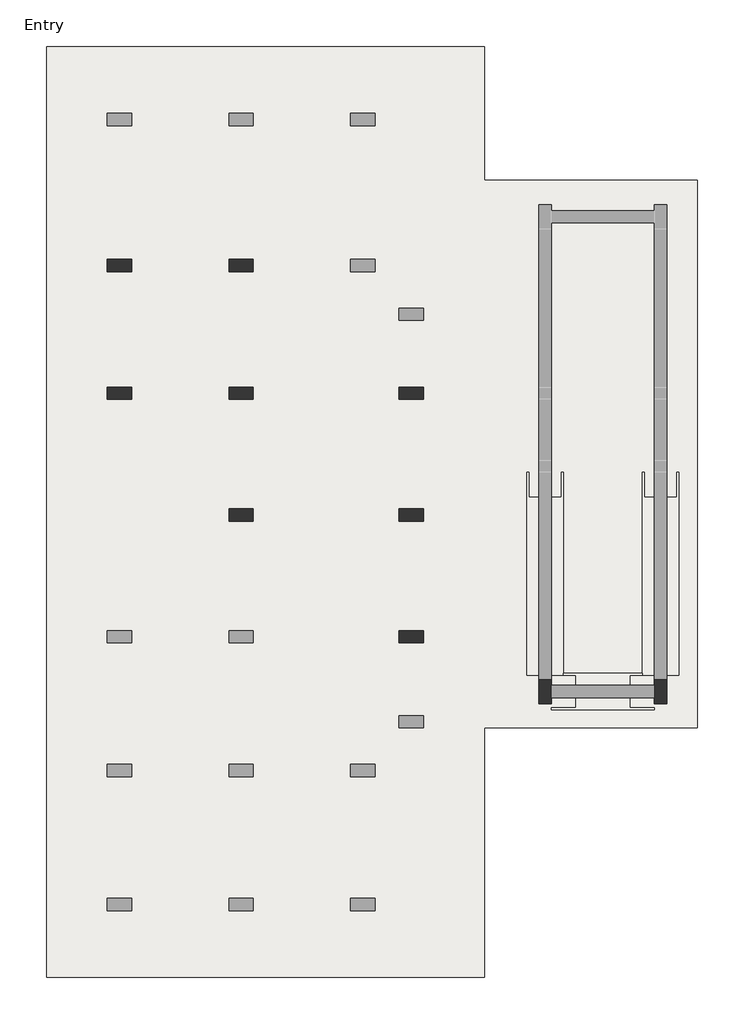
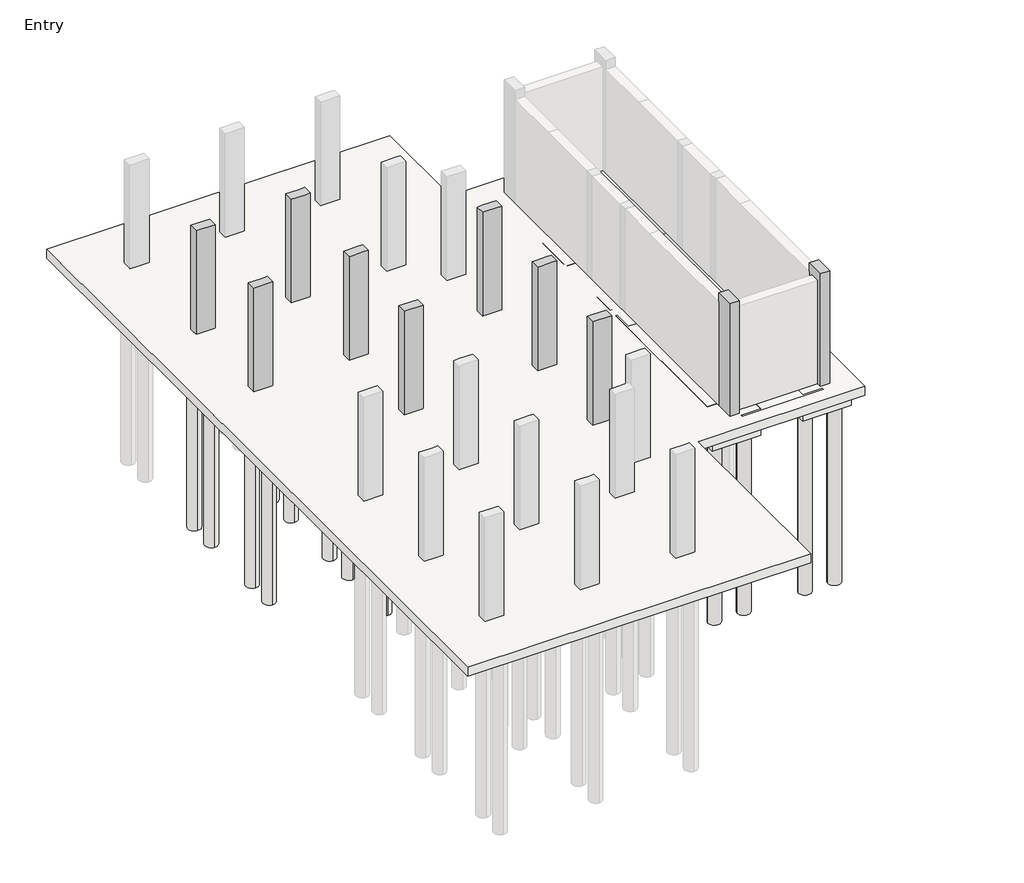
# One storey, part 2 of 3: 34 slabs, 10 columns, 3 footings.
"""IFC4 building model written with IfcOpenShell, lengths in millimetres."""

from ifc_helpers import new_model, si_unit, point, frame, frame_2d, origin, place, context, project, spatial, polyline, circle_curve, trimmed, segment, composite_curve, outline, extrude, faceted_brep, element, save

model = new_model("IFC4")

# Units and contexts
model_context = context("Model", 3, world=origin())
ifc_project = project(units=[si_unit("LENGTHUNIT", "METRE", prefix="MILLI")], contexts=[model_context])

# Site, building, storey
site = spatial("IfcSite", under=ifc_project)
building = spatial("IfcBuilding", under=site)
storey = spatial("IfcBuildingStorey", under=building, Name="Entry", Elevation=0.0)

# Columns
placement = place(None, origin())
element("IfcColumn", 1, ObjectType="Concrete-Rectangular-Column : 12 x 24", at=placement, inside=storey, context=model_context, shape_type="Brep", body=[
    faceted_brep([(-15967.1663981, 6616.5487848, 0.0), (-15357.5663981, 6616.5487848, 0.0), (-15357.5663981, 6311.7487848, 0.0), (-15967.1663981, 6311.7487848, 0.0), (-15967.1663981, 6616.5487848, 3505.2), (-15814.7663981, 6616.5487848, 3505.2), (-15509.9663981, 6616.5487848, 3505.2), (-15357.5663981, 6616.5487848, 3505.2), (-15357.5663981, 6616.5487848, 2895.6), (-15357.5663981, 6311.7487848, 3505.2), (-15357.5663981, 6311.7487848, 2895.6), (-15509.9663981, 6311.7487848, 3505.2), (-15814.7663981, 6311.7487848, 3505.2), (-15967.1663981, 6311.7487848, 3505.2)], [[[0, 1, 2, 3]], [[4, 5, 6, 7, 8, 1, 0]], [[7, 9, 10, 2, 1, 8]], [[9, 11, 12, 13, 3, 2, 10]], [[13, 4, 0, 3]], [[4, 13, 12, 11, 9, 7, 6, 5]]]),
])
element("IfcColumn", 2, ObjectType="Concrete-Rectangular-Column : 12 x 24", at=placement, inside=storey, context=model_context, shape_type="Brep", body=[
    faceted_brep([(-15967.1663981, 3416.1487848, 0.0), (-15357.5663981, 3416.1487848, 0.0), (-15357.5663981, 3111.3487848, 0.0), (-15967.1663981, 3111.3487848, 0.0), (-15967.1663981, 3416.1487848, 3505.2), (-15814.7663981, 3416.1487848, 3505.2), (-15509.9663981, 3416.1487848, 3505.2), (-15357.5663981, 3416.1487848, 3505.2), (-15357.5663981, 3416.1487848, 2895.6), (-15357.5663981, 3111.3487848, 3505.2), (-15357.5663981, 3111.3487848, 2895.6), (-15967.1663981, 3111.3487848, 3505.2)], [[[0, 1, 2, 3]], [[4, 5, 6, 7, 8, 1, 0]], [[7, 9, 10, 2, 1, 8]], [[9, 11, 3, 2, 10]], [[11, 4, 0, 3]], [[4, 11, 9, 7, 6, 5]]]),
])
element("IfcColumn", 3, ObjectType="Concrete-Rectangular-Column : 12 x 24", at=placement, inside=storey, context=model_context, shape_type="Brep", body=[
    faceted_brep([(-12919.1663981, 368.1487848, 0.0), (-12309.5663981, 368.1487848, 0.0), (-12309.5663981, 63.3487848, 0.0), (-12919.1663981, 63.3487848, 0.0), (-12919.1663981, 368.1487848, 3505.2), (-12766.7663981, 368.1487848, 3505.2), (-12461.9663981, 368.1487848, 3505.2), (-12309.5663981, 368.1487848, 3505.2), (-12309.5663981, 368.1487848, 2895.6), (-12309.5663981, 63.3487848, 3505.2), (-12309.5663981, 63.3487848, 2895.6), (-12461.9663981, 63.3487848, 3505.2), (-12766.7663981, 63.3487848, 3505.2), (-12919.1663981, 63.3487848, 3505.2)], [[[0, 1, 2, 3]], [[4, 5, 6, 7, 8, 1, 0]], [[7, 9, 10, 2, 1, 8]], [[9, 11, 12, 13, 3, 2, 10]], [[13, 4, 0, 3]], [[4, 13, 12, 11, 9, 7, 6, 5]]]),
])
element("IfcColumn", 4, ObjectType="Concrete-Rectangular-Column : 12 x 24", at=placement, inside=storey, context=model_context, shape_type="Brep", body=[
    faceted_brep([(-12919.1663981, 3416.1487848, 0.0), (-12309.5663981, 3416.1487848, 0.0), (-12309.5663981, 3111.3487848, 0.0), (-12919.1663981, 3111.3487848, 0.0), (-12919.1663981, 3416.1487848, 3505.2), (-12766.7663981, 3416.1487848, 3505.2), (-12461.9663981, 3416.1487848, 3505.2), (-12309.5663981, 3416.1487848, 3505.2), (-12309.5663981, 3416.1487848, 2895.6), (-12919.1663981, 3416.1487848, 2895.6), (-12309.5663981, 3111.3487848, 3505.2), (-12309.5663981, 3111.3487848, 2895.6), (-12461.9663981, 3111.3487848, 3505.2), (-12766.7663981, 3111.3487848, 3505.2), (-12919.1663981, 3111.3487848, 3505.2), (-12919.1663981, 3111.3487848, 2895.6)], [[[0, 1, 2, 3]], [[4, 5, 6, 7, 8, 1, 0, 9]], [[7, 10, 11, 2, 1, 8]], [[10, 12, 13, 14, 15, 3, 2, 11]], [[14, 4, 9, 0, 3, 15]], [[4, 14, 13, 12, 10, 7, 6, 5]]]),
])
element("IfcColumn", 5, ObjectType="Concrete-Rectangular-Column : 12 x 24", at=placement, inside=storey, context=model_context, shape_type="Brep", body=[
    faceted_brep([(-12919.1663981, 6616.5487848, 0.0), (-12309.5663981, 6616.5487848, 0.0), (-12309.5663981, 6311.7487848, 0.0), (-12919.1663981, 6311.7487848, 0.0), (-12919.1663981, 6616.5487848, 3505.2), (-12766.7663981, 6616.5487848, 3505.2), (-12461.9663981, 6616.5487848, 3505.2), (-12309.5663981, 6616.5487848, 3505.2), (-12309.5663981, 6616.5487848, 2895.6), (-12919.1663981, 6616.5487848, 2895.6), (-12309.5663981, 6311.7487848, 3505.2), (-12309.5663981, 6311.7487848, 2895.6), (-12461.9663981, 6311.7487848, 3505.2), (-12766.7663981, 6311.7487848, 3505.2), (-12919.1663981, 6311.7487848, 3505.2), (-12919.1663981, 6311.7487848, 2895.6)], [[[0, 1, 2, 3]], [[4, 5, 6, 7, 8, 1, 0, 9]], [[7, 10, 11, 2, 1, 8]], [[10, 12, 13, 14, 15, 3, 2, 11]], [[14, 4, 9, 0, 3, 15]], [[4, 14, 13, 12, 10, 7, 6, 5]]]),
])
element("IfcColumn", 6, ObjectType="Concrete-Rectangular-Column : 12 x 24", at=placement, inside=storey, context=model_context, shape_type="Brep", body=[
    faceted_brep([(-8651.9663981, 3416.1487848, 0.0), (-8042.3663981, 3416.1487848, 0.0), (-8042.3663981, 3111.3487848, 0.0), (-8651.9663981, 3111.3487848, 0.0), (-8651.9663981, 3416.1487848, 3505.2), (-8499.5663981, 3416.1487848, 3505.2), (-8194.7663981, 3416.1487848, 3505.2), (-8042.3663981, 3416.1487848, 3505.2), (-8042.3663981, 3416.1487848, 2895.6), (-8651.9663981, 3416.1487848, 2895.6), (-8042.3663981, 3111.3487848, 3505.2), (-8042.3663981, 3111.3487848, 2895.6), (-8194.7663981, 3111.3487848, 3505.2), (-8499.5663981, 3111.3487848, 3505.2), (-8651.9663981, 3111.3487848, 3505.2), (-8651.9663981, 3111.3487848, 2895.6)], [[[0, 1, 2, 3]], [[4, 5, 6, 7, 8, 1, 0, 9]], [[7, 10, 11, 2, 1, 8]], [[10, 12, 13, 14, 15, 3, 2, 11]], [[14, 4, 9, 0, 3, 15]], [[4, 14, 13, 12, 10, 7, 6, 5]]]),
])
element("IfcColumn", 7, ObjectType="Concrete-Rectangular-Column : 12 x 24", at=placement, inside=storey, context=model_context, shape_type="Brep", body=[
    faceted_brep([(-8651.9663981, 368.1487848, 0.0), (-8042.3663981, 368.1487848, 0.0), (-8042.3663981, 63.3487848, 0.0), (-8651.9663981, 63.3487848, 0.0), (-8651.9663981, 368.1487848, 3505.2), (-8499.5663981, 368.1487848, 3505.2), (-8194.7663981, 368.1487848, 3505.2), (-8042.3663981, 368.1487848, 3505.2), (-8651.9663981, 368.1487848, 2895.6), (-8042.3663981, 63.3487848, 3505.2), (-8194.7663981, 63.3487848, 3505.2), (-8499.5663981, 63.3487848, 3505.2), (-8651.9663981, 63.3487848, 3505.2), (-8651.9663981, 63.3487848, 2895.6)], [[[0, 1, 2, 3]], [[4, 5, 6, 7, 1, 0, 8]], [[7, 9, 2, 1]], [[9, 10, 11, 12, 13, 3, 2]], [[12, 4, 8, 0, 3, 13]], [[4, 12, 11, 10, 9, 7, 6, 5]]]),
])
element("IfcColumn", 8, ObjectType="Concrete-Rectangular-Column : 12 x 24", at=placement, inside=storey, context=model_context, shape_type="Brep", body=[
    faceted_brep([(-8651.9663981, -2679.8512152, 0.0), (-8042.3663981, -2679.8512152, 0.0), (-8042.3663981, -2984.6512152, 0.0), (-8651.9663981, -2984.6512152, 0.0), (-8651.9663981, -2679.8512152, 3505.2), (-8499.5663981, -2679.8512152, 3505.2), (-8194.7663981, -2679.8512152, 3505.2), (-8042.3663981, -2679.8512152, 3505.2), (-8651.9663981, -2679.8512152, 2895.6), (-8042.3663981, -2984.6512152, 3505.2), (-8194.7663981, -2984.6512152, 3505.2), (-8499.5663981, -2984.6512152, 3505.2), (-8651.9663981, -2984.6512152, 3505.2), (-8651.9663981, -2984.6512152, 2895.6)], [[[0, 1, 2, 3]], [[4, 5, 6, 7, 1, 0, 8]], [[7, 9, 2, 1]], [[9, 10, 11, 12, 13, 3, 2]], [[12, 4, 8, 0, 3, 13]], [[4, 12, 11, 10, 9, 7, 6, 5]]]),
])
element("IfcColumn", 9, ObjectType="Concrete-Rectangular-Column : 12 x 24", at=placement, inside=storey, context=model_context, shape_type="Brep", body=[
    faceted_brep([(-5146.7663981, -4508.6512152, 0.0), (-5146.7663981, -3899.0512152, 0.0), (-4841.9663981, -3899.0512152, 0.0), (-4841.9663981, -4051.4512152, 0.0), (-4841.9663981, -4356.2512152, 0.0), (-4841.9663981, -4508.6512152, 0.0), (-5146.7663981, -4508.6512152, 3810.0), (-5146.7663981, -3899.0512152, 3810.0), (-5146.7663981, -3899.0512152, 3505.2), (-4841.9663981, -3899.0512152, 3810.0), (-4841.9663981, -3899.0512152, 3505.2), (-4841.9663981, -4508.6512152, 3810.0)], [[[0, 1, 2, 3, 4, 5]], [[6, 7, 8, 1, 0]], [[7, 9, 10, 2, 1, 8]], [[9, 11, 5, 4, 3, 2, 10]], [[11, 6, 0, 5]], [[6, 11, 9, 7]]]),
])
element("IfcColumn", 10, ObjectType="Concrete-Rectangular-Column : 12 x 24", at=placement, inside=storey, context=model_context, shape_type="Brep", body=[
    faceted_brep([(-2251.1663981, -4508.6512152, 0.0), (-2251.1663981, -4356.2512152, 0.0), (-2251.1663981, -4051.4512152, 0.0), (-2251.1663981, -3899.0512152, 0.0), (-1946.3663981, -3899.0512152, 0.0), (-1946.3663981, -4508.6512152, 0.0), (-2251.1663981, -4508.6512152, 3810.0), (-2251.1663981, -3899.0512152, 3810.0), (-2251.1663981, -3899.0512152, 3505.2), (-1946.3663981, -3899.0512152, 3810.0), (-1946.3663981, -3899.0512152, 3505.2), (-1946.3663981, -4508.6512152, 3810.0)], [[[0, 1, 2, 3, 4, 5]], [[6, 7, 8, 3, 2, 1, 0]], [[7, 9, 10, 4, 3, 8]], [[9, 11, 5, 4, 10]], [[11, 6, 0, 5]], [[6, 11, 9, 7]]]),
])

# Footings
element("IfcFooting", 11, ObjectType="Bearing Footing - 36\" x 12\"", at=placement, inside=storey, context=model_context, shape_type="Brep", body=[
    faceted_brep([(-4537.1663981, 1282.5487848, 0.0), (-4537.1663981, 1282.5487848, -304.8), (-4587.9663981, 1282.5487848, -304.8), (-4587.9663981, 1282.5487848, 0.0), (-5451.5663981, 1282.5487848, -304.8), (-5451.5663981, 1282.5487848, 0.0), (-5400.7663981, 1282.5487848, 0.0), (-5400.7663981, 1282.5487848, -304.8), (-5451.5663981, -3797.4512152, 0.0), (-4537.1663981, -3797.4512152, 0.0), (-4537.1663981, -3746.6512152, 0.0), (-4587.9663981, 660.2487848, 0.0), (-5400.7663981, 660.2487848, 0.0), (-4537.1663981, -3797.4512152, -304.8), (-4537.1663981, -3746.6512152, -304.8), (-5400.7663981, 660.2487848, -304.8), (-4587.9663981, 660.2487848, -304.8), (-5451.5663981, -3797.4512152, -304.8)], [[[0, 1, 2, 3]], [[4, 5, 6, 7]], [[6, 5, 8, 9, 10, 0, 3, 11, 12]], [[1, 0, 10, 9, 13, 14]], [[4, 7, 15, 16, 2, 1, 14, 13, 17]], [[5, 4, 17, 8]], [[12, 15, 7, 6]], [[15, 12, 11, 16]], [[16, 11, 3, 2]], [[9, 8, 17, 13]]]),
])
element("IfcFooting", 12, ObjectType="Bearing Footing - 36\" x 12\"", at=placement, inside=storey, context=model_context, shape_type="Brep", body=[
    faceted_brep([(-1641.5663981, 1282.5487848, 0.0), (-1641.5663981, 1282.5487848, -304.8), (-1692.3663981, 1282.5487848, -304.8), (-1692.3663981, 1282.5487848, 0.0), (-2555.9663981, 1282.5487848, -304.8), (-2555.9663981, 1282.5487848, 0.0), (-2505.1663981, 1282.5487848, 0.0), (-2505.1663981, 1282.5487848, -304.8), (-2555.9663981, -3746.6512152, 0.0), (-2555.9663981, -3797.4512152, 0.0), (-1641.5663981, -3797.4512152, 0.0), (-1692.3663981, 660.2487848, 0.0), (-2505.1663981, 660.2487848, 0.0), (-1641.5663981, -3797.4512152, -304.8), (-2505.1663981, 660.2487848, -304.8), (-1692.3663981, 660.2487848, -304.8), (-2555.9663981, -3797.4512152, -304.8), (-2555.9663981, -3746.6512152, -304.8)], [[[0, 1, 2, 3]], [[4, 5, 6, 7]], [[6, 5, 8, 9, 10, 0, 3, 11, 12]], [[1, 0, 10, 13]], [[4, 7, 14, 15, 2, 1, 13, 16, 17]], [[5, 4, 17, 16, 9, 8]], [[12, 14, 7, 6]], [[14, 12, 11, 15]], [[15, 11, 3, 2]], [[10, 9, 16, 13]]]),
])
element("IfcFooting", 13, ObjectType="Bearing Footing - 36\" x 12\"", at=placement, inside=storey, context=model_context, shape_type="SweptSolid", body=[
    extrude(outline(polyline([(-2251.1663981, -4661.0512152), (-4841.9663981, -4661.0512152), (-4841.9663981, -4610.2512152), (-4219.6663981, -4610.2512152), (-4219.6663981, -3797.4512152), (-4537.1663981, -3797.4512152), (-4537.1663981, -3746.6512152), (-2555.9663981, -3746.6512152), (-2555.9663981, -3797.4512152), (-2873.4663981, -3797.4512152), (-2873.4663981, -4610.2512152), (-2251.1663981, -4610.2512152), (-2251.1663981, -4661.0512152)])), frame((0.0, 0.0, -304.8), z_axis=(0.0, 0.0, 1.0), x_axis=(1.0, 0.0, 0.0)), (0.0, 0.0, 1.0), 304.8),
])

# Slabs
element("IfcSlab", 14, ObjectType="12\" Foundation Slab", at=placement, inside=storey, context=model_context, shape_type="SweptSolid", body=[
    extrude(outline(polyline([(-6518.3663981, 11950.5487848), (-6518.3663981, 8597.7487848), (-1184.3663981, 8597.7487848), (-1184.3663981, -5118.2512152), (-6518.3663981, -5118.2512152), (-6518.3663981, -11366.6512152), (-17491.1663981, -11366.6512152), (-17491.1663981, 11950.5487848), (-6518.3663981, 11950.5487848)])), frame((0.0, 0.0, -304.8), z_axis=(0.0, 0.0, 1.0), x_axis=(1.0, 0.0, 0.0)), (0.0, 0.0, 1.0), 304.8),
])
element("IfcSlab", 15, ObjectType="Pile Cap-2 Pile : 31\"x61\"x35\"", at=placement, inside=storey, context=model_context, shape_type="SweptSolid", body=[
    extrude(outline(polyline([(-16068.7663981, 7238.8487848), (-15255.9663981, 7238.8487848), (-15255.9663981, 5689.4487848), (-16068.7663981, 5689.4487848), (-16068.7663981, 7238.8487848)])), frame((0.0, 0.0, -889.0), z_axis=(0.0, 0.0, 1.0), x_axis=(1.0, 0.0, 0.0)), (0.0, 0.0, 1.0), 584.2),
])
element("IfcSlab", 16, ObjectType="Pile Cap-2 Pile : 31\"x61\"x35\"", at=placement, inside=storey, context=model_context, shape_type="SweptSolid", body=[
    extrude(outline(polyline([(-16068.7663981, 4038.4487848), (-15255.9663981, 4038.4487848), (-15255.9663981, 2489.0487848), (-16068.7663981, 2489.0487848), (-16068.7663981, 4038.4487848)])), frame((0.0, 0.0, -889.0), z_axis=(0.0, 0.0, 1.0), x_axis=(1.0, 0.0, 0.0)), (0.0, 0.0, 1.0), 584.2),
])
element("IfcSlab", 17, ObjectType="Pile Cap-2 Pile : 31\"x61\"x35\"", at=placement, inside=storey, context=model_context, shape_type="SweptSolid", body=[
    extrude(outline(polyline([(-8753.5663981, -2057.5512152), (-7940.7663981, -2057.5512152), (-7940.7663981, -3606.9512152), (-8753.5663981, -3606.9512152), (-8753.5663981, -2057.5512152)])), frame((0.0, 0.0, -889.0), z_axis=(0.0, 0.0, 1.0), x_axis=(1.0, 0.0, 0.0)), (0.0, 0.0, 1.0), 584.2),
])
element("IfcSlab", 18, ObjectType="Pile Cap-2 Pile : 31\"x61\"x35\"", at=placement, inside=storey, context=model_context, shape_type="SweptSolid", body=[
    extrude(outline(polyline([(-8753.5663981, 990.4487848), (-7940.7663981, 990.4487848), (-7940.7663981, -558.9512152), (-8753.5663981, -558.9512152), (-8753.5663981, 990.4487848)])), frame((0.0, 0.0, -889.0), z_axis=(0.0, 0.0, 1.0), x_axis=(1.0, 0.0, 0.0)), (0.0, 0.0, 1.0), 584.2),
])
element("IfcSlab", 19, ObjectType="Pile Cap-2 Pile : 31\"x61\"x35\"", at=placement, inside=storey, context=model_context, shape_type="SweptSolid", body=[
    extrude(outline(polyline([(-8753.5663981, 4038.4487848), (-7940.7663981, 4038.4487848), (-7940.7663981, 2489.0487848), (-8753.5663981, 2489.0487848), (-8753.5663981, 4038.4487848)])), frame((0.0, 0.0, -889.0), z_axis=(0.0, 0.0, 1.0), x_axis=(1.0, 0.0, 0.0)), (0.0, 0.0, 1.0), 584.2),
])
element("IfcSlab", 20, ObjectType="Pile Cap-2 Pile : 31\"x61\"x35\"", at=placement, inside=storey, context=model_context, shape_type="SweptSolid", body=[
    extrude(outline(polyline([(-5769.0663981, -4610.2512152), (-5769.0663981, -3797.4512152), (-4219.6663981, -3797.4512152), (-4219.6663981, -4610.2512152), (-5769.0663981, -4610.2512152)])), frame((0.0, 0.0, -889.0), z_axis=(0.0, 0.0, 1.0), x_axis=(1.0, 0.0, 0.0)), (0.0, 0.0, 1.0), 584.2),
])
element("IfcSlab", 21, ObjectType="Pile Cap-2 Pile : 31\"x61\"x35\"", at=placement, inside=storey, context=model_context, shape_type="SweptSolid", body=[
    extrude(outline(polyline([(-2873.4663981, -4610.2512152), (-2873.4663981, -3797.4512152), (-1324.0663981, -3797.4512152), (-1324.0663981, -4610.2512152), (-2873.4663981, -4610.2512152)])), frame((0.0, 0.0, -889.0), z_axis=(0.0, 0.0, 1.0), x_axis=(1.0, 0.0, 0.0)), (0.0, 0.0, 1.0), 584.2),
])
element("IfcSlab", 22, ObjectType="Pile Cap-4 Pile : 72\"x72\"x35\"", at=placement, inside=storey, context=model_context, shape_type="SweptSolid", body=[
    extrude(outline(polyline([(-13528.7663981, 7378.5487848), (-11699.9663981, 7378.5487848), (-11699.9663981, 5549.7487848), (-13528.7663981, 5549.7487848), (-13528.7663981, 7378.5487848)])), frame((0.0, 0.0, -889.0), z_axis=(0.0, 0.0, 1.0), x_axis=(1.0, 0.0, 0.0)), (0.0, 0.0, 1.0), 584.2),
])
element("IfcSlab", 23, ObjectType="Pile Cap-4 Pile : 72\"x72\"x35\"", at=placement, inside=storey, context=model_context, shape_type="SweptSolid", body=[
    extrude(outline(polyline([(-13528.7663981, 4178.1487848), (-11699.9663981, 4178.1487848), (-11699.9663981, 2349.3487848), (-13528.7663981, 2349.3487848), (-13528.7663981, 4178.1487848)])), frame((0.0, 0.0, -889.0), z_axis=(0.0, 0.0, 1.0), x_axis=(1.0, 0.0, 0.0)), (0.0, 0.0, 1.0), 584.2),
])
element("IfcSlab", 24, ObjectType="Pile Cap-4 Pile : 72\"x72\"x35\"", at=placement, inside=storey, context=model_context, shape_type="SweptSolid", body=[
    extrude(outline(polyline([(-13528.7663981, 1130.1487848), (-11699.9663981, 1130.1487848), (-11699.9663981, -698.6512152), (-13528.7663981, -698.6512152), (-13528.7663981, 1130.1487848)])), frame((0.0, 0.0, -889.0), z_axis=(0.0, 0.0, 1.0), x_axis=(1.0, 0.0, 0.0)), (0.0, 0.0, 1.0), 584.2),
])
element("IfcSlab", 25, ObjectType="Pile-Steel Pipe : 16\" Diameter", at=placement, inside=storey, context=model_context, shape_type="SweptSolid", body=[
    extrude(outline(composite_curve([segment(trimmed(circle_curve(frame_2d((-13147.7663981, 5930.7487848)), 203.2), [point((-13147.7663981, 5727.5487848))], [point((-13147.7663981, 6133.9487848))], False, "CARTESIAN"), True, "CONTINUOUS"), segment(trimmed(circle_curve(frame_2d((-13147.7663981, 5930.7487848)), 203.2), [point((-13147.7663981, 6133.9487848))], [point((-13147.7663981, 5727.5487848))], False, "CARTESIAN"), True, "CONTINUOUS")], self_intersect=False)), frame((0.0, 0.0, -6985.0), z_axis=(0.0, 0.0, 1.0), x_axis=(1.0, 0.0, 0.0)), (0.0, 0.0, 1.0), 6096.0),
])
element("IfcSlab", 26, ObjectType="Pile-Steel Pipe : 16\" Diameter", at=placement, inside=storey, context=model_context, shape_type="SweptSolid", body=[
    extrude(outline(composite_curve([segment(trimmed(circle_curve(frame_2d((-12080.9663981, 5930.7487848)), 203.2), [point((-12080.9663981, 5727.5487848))], [point((-12080.9663981, 6133.9487848))], False, "CARTESIAN"), True, "CONTINUOUS"), segment(trimmed(circle_curve(frame_2d((-12080.9663981, 5930.7487848)), 203.2), [point((-12080.9663981, 6133.9487848))], [point((-12080.9663981, 5727.5487848))], False, "CARTESIAN"), True, "CONTINUOUS")], self_intersect=False)), frame((0.0, 0.0, -6985.0), z_axis=(0.0, 0.0, 1.0), x_axis=(1.0, 0.0, 0.0)), (0.0, 0.0, 1.0), 6096.0),
])
element("IfcSlab", 27, ObjectType="Pile-Steel Pipe : 16\" Diameter", at=placement, inside=storey, context=model_context, shape_type="SweptSolid", body=[
    extrude(outline(composite_curve([segment(trimmed(circle_curve(frame_2d((-12080.9663981, 6997.5487848)), 203.2), [point((-12080.9663981, 6794.3487848))], [point((-12080.9663981, 7200.7487848))], False, "CARTESIAN"), True, "CONTINUOUS"), segment(trimmed(circle_curve(frame_2d((-12080.9663981, 6997.5487848)), 203.2), [point((-12080.9663981, 7200.7487848))], [point((-12080.9663981, 6794.3487848))], False, "CARTESIAN"), True, "CONTINUOUS")], self_intersect=False)), frame((0.0, 0.0, -6985.0), z_axis=(0.0, 0.0, 1.0), x_axis=(1.0, 0.0, 0.0)), (0.0, 0.0, 1.0), 6096.0),
])
element("IfcSlab", 28, ObjectType="Pile-Steel Pipe : 16\" Diameter", at=placement, inside=storey, context=model_context, shape_type="SweptSolid", body=[
    extrude(outline(composite_curve([segment(trimmed(circle_curve(frame_2d((-13147.7663981, 6997.5487848)), 203.2), [point((-13147.7663981, 6794.3487848))], [point((-13147.7663981, 7200.7487848))], False, "CARTESIAN"), True, "CONTINUOUS"), segment(trimmed(circle_curve(frame_2d((-13147.7663981, 6997.5487848)), 203.2), [point((-13147.7663981, 7200.7487848))], [point((-13147.7663981, 6794.3487848))], False, "CARTESIAN"), True, "CONTINUOUS")], self_intersect=False)), frame((0.0, 0.0, -6985.0), z_axis=(0.0, 0.0, 1.0), x_axis=(1.0, 0.0, 0.0)), (0.0, 0.0, 1.0), 6096.0),
])
element("IfcSlab", 29, ObjectType="Pile-Steel Pipe : 16\" Diameter", at=placement, inside=storey, context=model_context, shape_type="SweptSolid", body=[
    extrude(outline(composite_curve([segment(trimmed(circle_curve(frame_2d((-13147.7663981, 2730.3487848)), 203.2), [point((-13147.7663981, 2527.1487848))], [point((-13147.7663981, 2933.5487848))], False, "CARTESIAN"), True, "CONTINUOUS"), segment(trimmed(circle_curve(frame_2d((-13147.7663981, 2730.3487848)), 203.2), [point((-13147.7663981, 2933.5487848))], [point((-13147.7663981, 2527.1487848))], False, "CARTESIAN"), True, "CONTINUOUS")], self_intersect=False)), frame((0.0, 0.0, -6985.0), z_axis=(0.0, 0.0, 1.0), x_axis=(1.0, 0.0, 0.0)), (0.0, 0.0, 1.0), 6096.0),
])
element("IfcSlab", 30, ObjectType="Pile-Steel Pipe : 16\" Diameter", at=placement, inside=storey, context=model_context, shape_type="SweptSolid", body=[
    extrude(outline(composite_curve([segment(trimmed(circle_curve(frame_2d((-12080.9663981, 2730.3487848)), 203.2), [point((-12080.9663981, 2527.1487848))], [point((-12080.9663981, 2933.5487848))], False, "CARTESIAN"), True, "CONTINUOUS"), segment(trimmed(circle_curve(frame_2d((-12080.9663981, 2730.3487848)), 203.2), [point((-12080.9663981, 2933.5487848))], [point((-12080.9663981, 2527.1487848))], False, "CARTESIAN"), True, "CONTINUOUS")], self_intersect=False)), frame((0.0, 0.0, -6985.0), z_axis=(0.0, 0.0, 1.0), x_axis=(1.0, 0.0, 0.0)), (0.0, 0.0, 1.0), 6096.0),
])
element("IfcSlab", 31, ObjectType="Pile-Steel Pipe : 16\" Diameter", at=placement, inside=storey, context=model_context, shape_type="SweptSolid", body=[
    extrude(outline(composite_curve([segment(trimmed(circle_curve(frame_2d((-12080.9663981, 3797.1487848)), 203.2), [point((-12080.9663981, 3593.9487848))], [point((-12080.9663981, 4000.3487848))], False, "CARTESIAN"), True, "CONTINUOUS"), segment(trimmed(circle_curve(frame_2d((-12080.9663981, 3797.1487848)), 203.2), [point((-12080.9663981, 4000.3487848))], [point((-12080.9663981, 3593.9487848))], False, "CARTESIAN"), True, "CONTINUOUS")], self_intersect=False)), frame((0.0, 0.0, -6985.0), z_axis=(0.0, 0.0, 1.0), x_axis=(1.0, 0.0, 0.0)), (0.0, 0.0, 1.0), 6096.0),
])
element("IfcSlab", 32, ObjectType="Pile-Steel Pipe : 16\" Diameter", at=placement, inside=storey, context=model_context, shape_type="SweptSolid", body=[
    extrude(outline(composite_curve([segment(trimmed(circle_curve(frame_2d((-13147.7663981, 3797.1487848)), 203.2), [point((-13147.7663981, 3593.9487848))], [point((-13147.7663981, 4000.3487848))], False, "CARTESIAN"), True, "CONTINUOUS"), segment(trimmed(circle_curve(frame_2d((-13147.7663981, 3797.1487848)), 203.2), [point((-13147.7663981, 4000.3487848))], [point((-13147.7663981, 3593.9487848))], False, "CARTESIAN"), True, "CONTINUOUS")], self_intersect=False)), frame((0.0, 0.0, -6985.0), z_axis=(0.0, 0.0, 1.0), x_axis=(1.0, 0.0, 0.0)), (0.0, 0.0, 1.0), 6096.0),
])
element("IfcSlab", 33, ObjectType="Pile-Steel Pipe : 16\" Diameter", at=placement, inside=storey, context=model_context, shape_type="SweptSolid", body=[
    extrude(outline(composite_curve([segment(trimmed(circle_curve(frame_2d((-12080.9663981, 749.1487848)), 203.2), [point((-12080.9663981, 545.9487848))], [point((-12080.9663981, 952.3487848))], False, "CARTESIAN"), True, "CONTINUOUS"), segment(trimmed(circle_curve(frame_2d((-12080.9663981, 749.1487848)), 203.2), [point((-12080.9663981, 952.3487848))], [point((-12080.9663981, 545.9487848))], False, "CARTESIAN"), True, "CONTINUOUS")], self_intersect=False)), frame((0.0, 0.0, -6985.0), z_axis=(0.0, 0.0, 1.0), x_axis=(1.0, 0.0, 0.0)), (0.0, 0.0, 1.0), 6096.0),
])
element("IfcSlab", 34, ObjectType="Pile-Steel Pipe : 16\" Diameter", at=placement, inside=storey, context=model_context, shape_type="SweptSolid", body=[
    extrude(outline(composite_curve([segment(trimmed(circle_curve(frame_2d((-13147.7663981, 749.1487848)), 203.2), [point((-13147.7663981, 545.9487848))], [point((-13147.7663981, 952.3487848))], False, "CARTESIAN"), True, "CONTINUOUS"), segment(trimmed(circle_curve(frame_2d((-13147.7663981, 749.1487848)), 203.2), [point((-13147.7663981, 952.3487848))], [point((-13147.7663981, 545.9487848))], False, "CARTESIAN"), True, "CONTINUOUS")], self_intersect=False)), frame((0.0, 0.0, -6985.0), z_axis=(0.0, 0.0, 1.0), x_axis=(1.0, 0.0, 0.0)), (0.0, 0.0, 1.0), 6096.0),
])
element("IfcSlab", 35, ObjectType="Pile-Steel Pipe : 16\" Diameter", at=placement, inside=storey, context=model_context, shape_type="SweptSolid", body=[
    extrude(outline(composite_curve([segment(trimmed(circle_curve(frame_2d((-15662.3663981, 5994.2487848)), 203.2), [point((-15662.3663981, 5791.0487848))], [point((-15662.3663981, 6197.4487848))], False, "CARTESIAN"), True, "CONTINUOUS"), segment(trimmed(circle_curve(frame_2d((-15662.3663981, 5994.2487848)), 203.2), [point((-15662.3663981, 6197.4487848))], [point((-15662.3663981, 5791.0487848))], False, "CARTESIAN"), True, "CONTINUOUS")], self_intersect=False)), frame((0.0, 0.0, -6985.0), z_axis=(0.0, 0.0, 1.0), x_axis=(1.0, 0.0, 0.0)), (0.0, 0.0, 1.0), 6096.0),
])
element("IfcSlab", 36, ObjectType="Pile-Steel Pipe : 16\" Diameter", at=placement, inside=storey, context=model_context, shape_type="SweptSolid", body=[
    extrude(outline(composite_curve([segment(trimmed(circle_curve(frame_2d((-15662.3663981, 6934.0487848)), 203.2), [point((-15662.3663981, 6730.8487848))], [point((-15662.3663981, 7137.2487848))], False, "CARTESIAN"), True, "CONTINUOUS"), segment(trimmed(circle_curve(frame_2d((-15662.3663981, 6934.0487848)), 203.2), [point((-15662.3663981, 7137.2487848))], [point((-15662.3663981, 6730.8487848))], False, "CARTESIAN"), True, "CONTINUOUS")], self_intersect=False)), frame((0.0, 0.0, -6985.0), z_axis=(0.0, 0.0, 1.0), x_axis=(1.0, 0.0, 0.0)), (0.0, 0.0, 1.0), 6096.0),
])
element("IfcSlab", 37, ObjectType="Pile-Steel Pipe : 16\" Diameter", at=placement, inside=storey, context=model_context, shape_type="SweptSolid", body=[
    extrude(outline(composite_curve([segment(trimmed(circle_curve(frame_2d((-15662.3663981, 2793.8487848)), 203.2), [point((-15662.3663981, 2590.6487848))], [point((-15662.3663981, 2997.0487848))], False, "CARTESIAN"), True, "CONTINUOUS"), segment(trimmed(circle_curve(frame_2d((-15662.3663981, 2793.8487848)), 203.2), [point((-15662.3663981, 2997.0487848))], [point((-15662.3663981, 2590.6487848))], False, "CARTESIAN"), True, "CONTINUOUS")], self_intersect=False)), frame((0.0, 0.0, -6985.0), z_axis=(0.0, 0.0, 1.0), x_axis=(1.0, 0.0, 0.0)), (0.0, 0.0, 1.0), 6096.0),
])
element("IfcSlab", 38, ObjectType="Pile-Steel Pipe : 16\" Diameter", at=placement, inside=storey, context=model_context, shape_type="SweptSolid", body=[
    extrude(outline(composite_curve([segment(trimmed(circle_curve(frame_2d((-15662.3663981, 3733.6487848)), 203.2), [point((-15662.3663981, 3530.4487848))], [point((-15662.3663981, 3936.8487848))], False, "CARTESIAN"), True, "CONTINUOUS"), segment(trimmed(circle_curve(frame_2d((-15662.3663981, 3733.6487848)), 203.2), [point((-15662.3663981, 3936.8487848))], [point((-15662.3663981, 3530.4487848))], False, "CARTESIAN"), True, "CONTINUOUS")], self_intersect=False)), frame((0.0, 0.0, -6985.0), z_axis=(0.0, 0.0, 1.0), x_axis=(1.0, 0.0, 0.0)), (0.0, 0.0, 1.0), 6096.0),
])
element("IfcSlab", 39, ObjectType="Pile-Steel Pipe : 16\" Diameter", at=placement, inside=storey, context=model_context, shape_type="SweptSolid", body=[
    extrude(outline(composite_curve([segment(trimmed(circle_curve(frame_2d((-8347.1663981, -2362.3512152)), 203.2), [point((-8347.1663981, -2565.5512152))], [point((-8347.1663981, -2159.1512152))], False, "CARTESIAN"), True, "CONTINUOUS"), segment(trimmed(circle_curve(frame_2d((-8347.1663981, -2362.3512152)), 203.2), [point((-8347.1663981, -2159.1512152))], [point((-8347.1663981, -2565.5512152))], False, "CARTESIAN"), True, "CONTINUOUS")], self_intersect=False)), frame((0.0, 0.0, -6985.0), z_axis=(0.0, 0.0, 1.0), x_axis=(1.0, 0.0, 0.0)), (0.0, 0.0, 1.0), 6096.0),
])
element("IfcSlab", 40, ObjectType="Pile-Steel Pipe : 16\" Diameter", at=placement, inside=storey, context=model_context, shape_type="SweptSolid", body=[
    extrude(outline(composite_curve([segment(trimmed(circle_curve(frame_2d((-8347.1663981, -254.1512152)), 203.2), [point((-8347.1663981, -457.3512152))], [point((-8347.1663981, -50.9512152))], False, "CARTESIAN"), True, "CONTINUOUS"), segment(trimmed(circle_curve(frame_2d((-8347.1663981, -254.1512152)), 203.2), [point((-8347.1663981, -50.9512152))], [point((-8347.1663981, -457.3512152))], False, "CARTESIAN"), True, "CONTINUOUS")], self_intersect=False)), frame((0.0, 0.0, -6985.0), z_axis=(0.0, 0.0, 1.0), x_axis=(1.0, 0.0, 0.0)), (0.0, 0.0, 1.0), 6096.0),
])
element("IfcSlab", 41, ObjectType="Pile-Steel Pipe : 16\" Diameter", at=placement, inside=storey, context=model_context, shape_type="SweptSolid", body=[
    extrude(outline(composite_curve([segment(trimmed(circle_curve(frame_2d((-8347.1663981, 685.6487848)), 203.2), [point((-8347.1663981, 482.4487848))], [point((-8347.1663981, 888.8487848))], False, "CARTESIAN"), True, "CONTINUOUS"), segment(trimmed(circle_curve(frame_2d((-8347.1663981, 685.6487848)), 203.2), [point((-8347.1663981, 888.8487848))], [point((-8347.1663981, 482.4487848))], False, "CARTESIAN"), True, "CONTINUOUS")], self_intersect=False)), frame((0.0, 0.0, -6985.0), z_axis=(0.0, 0.0, 1.0), x_axis=(1.0, 0.0, 0.0)), (0.0, 0.0, 1.0), 6096.0),
])
element("IfcSlab", 42, ObjectType="Pile-Steel Pipe : 16\" Diameter", at=placement, inside=storey, context=model_context, shape_type="SweptSolid", body=[
    extrude(outline(composite_curve([segment(trimmed(circle_curve(frame_2d((-8347.1663981, 2793.8487848)), 203.2), [point((-8347.1663981, 2590.6487848))], [point((-8347.1663981, 2997.0487848))], False, "CARTESIAN"), True, "CONTINUOUS"), segment(trimmed(circle_curve(frame_2d((-8347.1663981, 2793.8487848)), 203.2), [point((-8347.1663981, 2997.0487848))], [point((-8347.1663981, 2590.6487848))], False, "CARTESIAN"), True, "CONTINUOUS")], self_intersect=False)), frame((0.0, 0.0, -6985.0), z_axis=(0.0, 0.0, 1.0), x_axis=(1.0, 0.0, 0.0)), (0.0, 0.0, 1.0), 6096.0),
])
element("IfcSlab", 43, ObjectType="Pile-Steel Pipe : 16\" Diameter", at=placement, inside=storey, context=model_context, shape_type="SweptSolid", body=[
    extrude(outline(composite_curve([segment(trimmed(circle_curve(frame_2d((-8347.1663981, 3733.6487848)), 203.2), [point((-8347.1663981, 3530.4487848))], [point((-8347.1663981, 3936.8487848))], False, "CARTESIAN"), True, "CONTINUOUS"), segment(trimmed(circle_curve(frame_2d((-8347.1663981, 3733.6487848)), 203.2), [point((-8347.1663981, 3936.8487848))], [point((-8347.1663981, 3530.4487848))], False, "CARTESIAN"), True, "CONTINUOUS")], self_intersect=False)), frame((0.0, 0.0, -6985.0), z_axis=(0.0, 0.0, 1.0), x_axis=(1.0, 0.0, 0.0)), (0.0, 0.0, 1.0), 6096.0),
])
element("IfcSlab", 44, ObjectType="Pile-Steel Pipe : 16\" Diameter", at=placement, inside=storey, context=model_context, shape_type="SweptSolid", body=[
    extrude(outline(composite_curve([segment(trimmed(circle_curve(frame_2d((-4524.4663981, -4203.8512152)), 203.2), [point((-4321.2663981, -4203.8512152))], [point((-4727.6663981, -4203.8512152))], False, "CARTESIAN"), True, "CONTINUOUS"), segment(trimmed(circle_curve(frame_2d((-4524.4663981, -4203.8512152)), 203.2), [point((-4727.6663981, -4203.8512152))], [point((-4321.2663981, -4203.8512152))], False, "CARTESIAN"), True, "CONTINUOUS")], self_intersect=False)), frame((0.0, 0.0, -6985.0), z_axis=(0.0, 0.0, 1.0), x_axis=(1.0, 0.0, 0.0)), (0.0, 0.0, 1.0), 6096.0),
])
element("IfcSlab", 45, ObjectType="Pile-Steel Pipe : 16\" Diameter", at=placement, inside=storey, context=model_context, shape_type="SweptSolid", body=[
    extrude(outline(composite_curve([segment(trimmed(circle_curve(frame_2d((-5464.2663981, -4203.8512152)), 203.2), [point((-5261.0663981, -4203.8512152))], [point((-5667.4663981, -4203.8512152))], False, "CARTESIAN"), True, "CONTINUOUS"), segment(trimmed(circle_curve(frame_2d((-5464.2663981, -4203.8512152)), 203.2), [point((-5667.4663981, -4203.8512152))], [point((-5261.0663981, -4203.8512152))], False, "CARTESIAN"), True, "CONTINUOUS")], self_intersect=False)), frame((0.0, 0.0, -6985.0), z_axis=(0.0, 0.0, 1.0), x_axis=(1.0, 0.0, 0.0)), (0.0, 0.0, 1.0), 6096.0),
])
element("IfcSlab", 46, ObjectType="Pile-Steel Pipe : 16\" Diameter", at=placement, inside=storey, context=model_context, shape_type="SweptSolid", body=[
    extrude(outline(composite_curve([segment(trimmed(circle_curve(frame_2d((-1628.8663981, -4203.8512152)), 203.2), [point((-1425.6663981, -4203.8512152))], [point((-1832.0663981, -4203.8512152))], False, "CARTESIAN"), True, "CONTINUOUS"), segment(trimmed(circle_curve(frame_2d((-1628.8663981, -4203.8512152)), 203.2), [point((-1832.0663981, -4203.8512152))], [point((-1425.6663981, -4203.8512152))], False, "CARTESIAN"), True, "CONTINUOUS")], self_intersect=False)), frame((0.0, 0.0, -6985.0), z_axis=(0.0, 0.0, 1.0), x_axis=(1.0, 0.0, 0.0)), (0.0, 0.0, 1.0), 6096.0),
])
element("IfcSlab", 47, ObjectType="Pile-Steel Pipe : 16\" Diameter", at=placement, inside=storey, context=model_context, shape_type="SweptSolid", body=[
    extrude(outline(composite_curve([segment(trimmed(circle_curve(frame_2d((-2568.6663981, -4203.8512152)), 203.2), [point((-2365.4663981, -4203.8512152))], [point((-2771.8663981, -4203.8512152))], False, "CARTESIAN"), True, "CONTINUOUS"), segment(trimmed(circle_curve(frame_2d((-2568.6663981, -4203.8512152)), 203.2), [point((-2771.8663981, -4203.8512152))], [point((-2365.4663981, -4203.8512152))], False, "CARTESIAN"), True, "CONTINUOUS")], self_intersect=False)), frame((0.0, 0.0, -6985.0), z_axis=(0.0, 0.0, 1.0), x_axis=(1.0, 0.0, 0.0)), (0.0, 0.0, 1.0), 6096.0),
])

save(model, "model.ifc")
